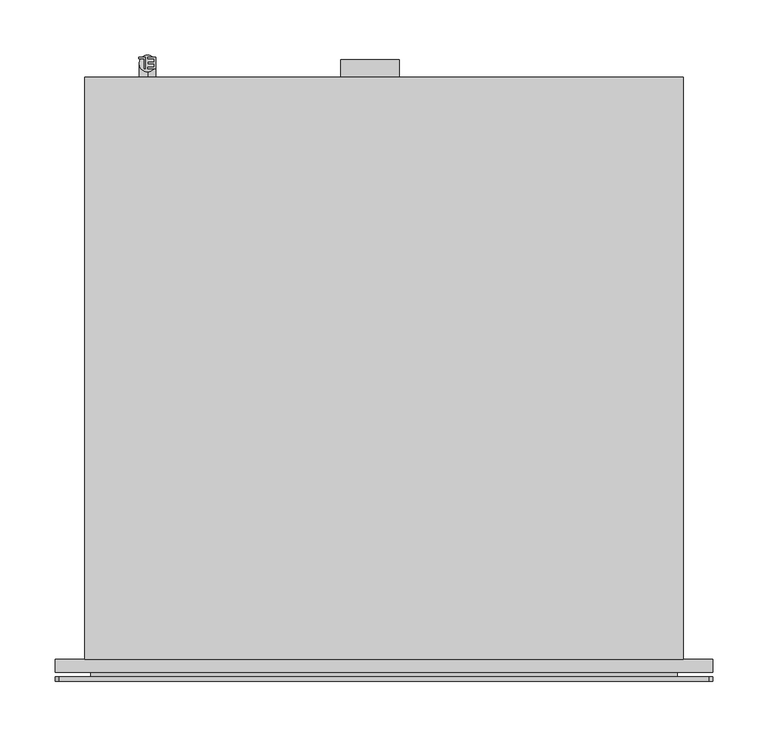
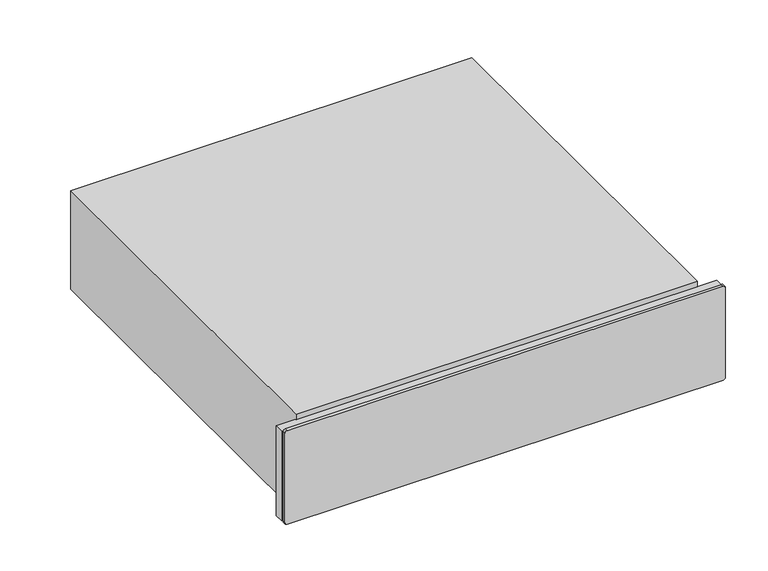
"""IFC4 building model written with IfcOpenShell, lengths in millimetres: proxy geometry, 11794740_USA_ESW7010_GRGR : 30701030_USA_11794740_ESW7010_GRGR."""

from ifc_helpers import new_model, si_unit, point, frame, frame_2d, origin, place, context, project, spatial, polyline, circle_curve, ellipse_curve, trimmed, segment, composite_curve, outline, extrude, faceted_brep, source, transform, mapped, element, save
from ifc_brep_helpers import plane_surface, cylinder_surface, advanced_brep


def specialty_equipment_169f8b40(model_context):
    return source(origin(), model_context, "Body", "SolidModel", [
        extrude(outline(polyline([(20.0, 123.0), (20.0, 82.0), (5.0, 82.0), (5.0, 6.0), (-12.0, 6.0), (-12.0, 123.0), (20.0, 123.0)])), frame((-261.5, 0.0, 0.0), z_axis=(1.0, 0.0, 0.0), x_axis=(0.0, 1.0, 0.0)), (0.0, 0.0, 1.0), 523.0),
        extrude(outline(composite_curve([segment(polyline([(138.0, 294.5), (138.0, -294.5)]), True, "CONTINUOUS"), segment(trimmed(circle_curve(frame_2d((135.0, -294.5)), 3.0), [point((138.0, -294.5))], [point((135.0, -297.5))], False, "CARTESIAN"), True, "CONTINUOUS"), segment(polyline([(135.0, -297.5), (7.0, -297.5)]), True, "CONTINUOUS"), segment(trimmed(circle_curve(frame_2d((7.0, -294.5)), 3.0), [point((7.0, -297.5))], [point((4.0, -294.5))], False, "CARTESIAN"), True, "CONTINUOUS"), segment(polyline([(4.0, -294.5), (4.0, 294.5)]), True, "CONTINUOUS"), segment(trimmed(circle_curve(frame_2d((7.0, 294.5)), 3.0), [point((4.0, 294.5))], [point((7.0, 297.5))], False, "CARTESIAN"), True, "CONTINUOUS"), segment(polyline([(7.0, 297.5), (135.0, 297.5)]), True, "CONTINUOUS"), segment(trimmed(circle_curve(frame_2d((135.0, 294.5)), 3.0), [point((135.0, 297.5))], [point((138.0, 294.5))], False, "CARTESIAN"), True, "CONTINUOUS")], self_intersect=False)), frame((0.0, -20.0, 0.0), z_axis=(0.0, 1.0, 0.0), x_axis=(0.0, 0.0, 1.0)), (0.0, 0.0, 1.0), 4.0),
        extrude(outline(polyline([(-265.5, -12.0), (265.5, -12.0), (265.5, -16.0), (-265.5, -16.0), (-265.5, -12.0)])), frame((0.0, 0.0, 6.0), z_axis=(0.0, 0.0, 1.0), x_axis=(1.0, 0.0, 0.0)), (0.0, 0.0, 1.0), 125.0),
        extrude(outline(polyline([(-206.6227397, 545.030815), (-206.6227397, 534.985184), (-213.843037, 534.985184), (-213.843037, 536.2408878), (-207.8784436, 536.2408878), (-207.8784436, 539.2231846), (-213.529111, 539.2231846), (-213.529111, 540.4788884), (-207.8784436, 540.4788884), (-207.8784436, 543.7751111), (-214.0, 543.7751111), (-214.0, 545.030815), (-206.6227397, 545.030815)])), frame((0.0, 0.0, 49.0), z_axis=(0.0, 0.0, 1.0), x_axis=(1.0, 0.0, 0.0)), (0.0, 0.0, 1.0), 1.0),
        extrude(outline(polyline([(-215.8835558, 545.030815), (-215.8835558, 534.985184), (-217.1392597, 534.985184), (-217.1392597, 543.7751111), (-222.1620752, 543.7751111), (-222.1620752, 545.030815), (-215.8835558, 545.030815)])), frame((0.0, 0.0, 49.0), z_axis=(0.0, 0.0, 1.0), x_axis=(1.0, 0.0, 0.0)), (0.0, 0.0, 1.0), 1.0),
        advanced_brep(
        [(-214.0, 527.0, 26.5), (-214.0, 527.0, 11.5), (-214.0, 532.0, 26.5), (-214.0, 547.0, 11.5), (-214.0, 532.0, 49.0), (-214.0, 547.0, 49.0)],
        [
            (0, 1, circle_curve(frame((-214.0, 527.0, 19.0), z_axis=(0.0, -1.0, 0.0), x_axis=(0.0, 0.0, -1.0)), 7.5)),
            (1, 0, circle_curve(frame((-214.0, 527.0, 19.0), z_axis=(0.0, -1.0, 0.0), x_axis=(0.0, 0.0, -1.0)), 7.5)),
            (0, 2),
            (2, 3, ellipse_curve(frame((-214.0, 539.5, 19.0), z_axis=(0.0, -0.7071067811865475, -0.7071067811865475), x_axis=(0.0, -0.7071067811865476, 0.7071067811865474)), 10.6066017, 7.5)),
            (3, 1),
            (3, 2, ellipse_curve(frame((-214.0, 539.5, 19.0), z_axis=(0.0, -0.7071067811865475, -0.7071067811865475), x_axis=(0.0, -0.7071067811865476, 0.7071067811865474)), 10.6066017, 7.5)),
            (4, 5, circle_curve(frame((-214.0, 539.5, 49.0), z_axis=(0.0, 0.0, 1.0), x_axis=(0.0, 1.0, 0.0)), 7.5)),
            (5, 4, circle_curve(frame((-214.0, 539.5, 49.0), z_axis=(0.0, 0.0, 1.0), x_axis=(0.0, 1.0, 0.0)), 7.5)),
            (2, 4),
            (5, 3),
        ],
        [
            plane_surface(frame((-214.0, 527.0, 19.0), z_axis=(0.0, -1.0, 0.0), x_axis=(-1.0, 0.0, 0.0))),
            cylinder_surface(frame((-214.0, 527.0, 19.0), z_axis=(0.0, -1.0, 0.0), x_axis=(0.0, 0.0, -1.0)), 7.5),
            plane_surface(frame((-214.0, 539.5, 49.0), z_axis=(0.0, 0.0, 1.0), x_axis=(-1.0, 0.0, 0.0))),
            cylinder_surface(frame((-214.0, 539.5, 19.0), z_axis=(0.0, 0.0, -1.0), x_axis=(0.0, 1.0, 0.0)), 7.5),
        ],
        [
            (0, [[1, 2]]),
            (1, [[-1, 3, 4, 5]]),
            (1, [[-2, -5, 6, -3]]),
            (2, [[7, 8]]),
            (3, [[-4, 9, -8, 10]]),
            (3, [[-6, -10, -7, -9]]),
        ],
    ),
        extrude(outline(polyline([(-39.0, 543.0), (14.0, 543.0), (14.0, 527.0), (-39.0, 527.0), (-39.0, 543.0)])), frame((0.0, 0.0, 3.0), z_axis=(0.0, 0.0, 1.0), x_axis=(1.0, 0.0, 0.0)), (0.0, 0.0, 1.0), 29.0),
        faceted_brep([(271.0, 527.0, 141.0), (-271.0, 527.0, 141.0), (-271.0, 0.0, 141.0), (271.0, 0.0, 141.0), (271.0, 527.0, 0.0), (271.0, 0.0, 0.0), (-271.0, 0.0, 0.0), (-271.0, 527.0, 0.0), (269.0, 0.0, 131.0), (269.0, 0.0, 6.0), (-269.0, 0.0, 6.0), (-269.0, 0.0, 131.0), (269.0, 521.0, 131.0), (-269.0, 521.0, 131.0), (-269.0, 521.0, 6.0), (269.0, 521.0, 6.0)], [[[0, 1, 2, 3]], [[4, 5, 6, 7]], [[1, 0, 4, 7]], [[2, 1, 7, 6]], [[3, 2, 6, 5], [8, 9, 10, 11]], [[0, 3, 5, 4]], [[12, 13, 14, 15]], [[12, 15, 9, 8]], [[15, 14, 10, 9]], [[14, 13, 11, 10]], [[13, 12, 8, 11]]]),
        faceted_brep([(297.5, -12.0, 133.5), (-297.5, -12.0, 133.5), (-297.5, -12.0, 5.5), (-269.0, -12.0, 5.5), (-269.0, -12.0, 6.0), (-269.0, -12.0, 131.0), (269.0, -12.0, 131.0), (269.0, -12.0, 6.0), (269.0, -12.0, 5.5), (297.5, -12.0, 5.5), (297.5, 0.0, 133.5), (297.5, 0.0, 5.5), (269.0, 0.0, 5.5), (269.0, 0.0, 6.0), (269.0, 0.0, 131.0), (-269.0, 0.0, 131.0), (-269.0, 0.0, 6.0), (-269.0, 0.0, 5.5), (-297.5, 0.0, 5.5), (-297.5, 0.0, 133.5)], [[[0, 1, 2, 3, 4, 5, 6, 7, 8, 9]], [[10, 11, 12, 13, 14, 15, 16, 17, 18, 19]], [[0, 9, 11, 10]], [[9, 8, 12, 11]], [[2, 1, 19, 18]], [[1, 0, 10, 19]], [[12, 8, 7, 6, 14, 13]], [[6, 5, 15, 14]], [[15, 5, 4, 3, 17, 16]], [[3, 2, 18, 17]]]),
    ])


if __name__ == "__main__":
    model = new_model("IFC4")
    model_context = context("Model", 3, world=origin())
    ifc_project = project(units=[si_unit("LENGTHUNIT", "METRE", prefix="MILLI")], contexts=[model_context])
    site = spatial("IfcSite", under=ifc_project)
    building = spatial("IfcBuilding", under=site)
    placement = place(None, origin())
    specialty_equipment_shape = specialty_equipment_169f8b40(model_context)
    element("IfcBuildingElementProxy", 1, Name="11794740_USA_ESW7010_GRGR : 30701030_USA_11794740_ESW7010_GRGR", ObjectType="11794740_USA_ESW7010_GRGR : 30701030_USA_11794740_ESW7010_GRGR", at=placement, inside=building, context=model_context, shape_type="MappedRepresentation", body=[
        mapped(specialty_equipment_shape, transform((0.0, 0.0, 0.0), x_axis=(1.0, 0.0, 0.0), y_axis=(0.0, 1.0, 0.0), z_axis=(0.0, 0.0, 1.0))),
    ])
    save(model, "model.ifc")
